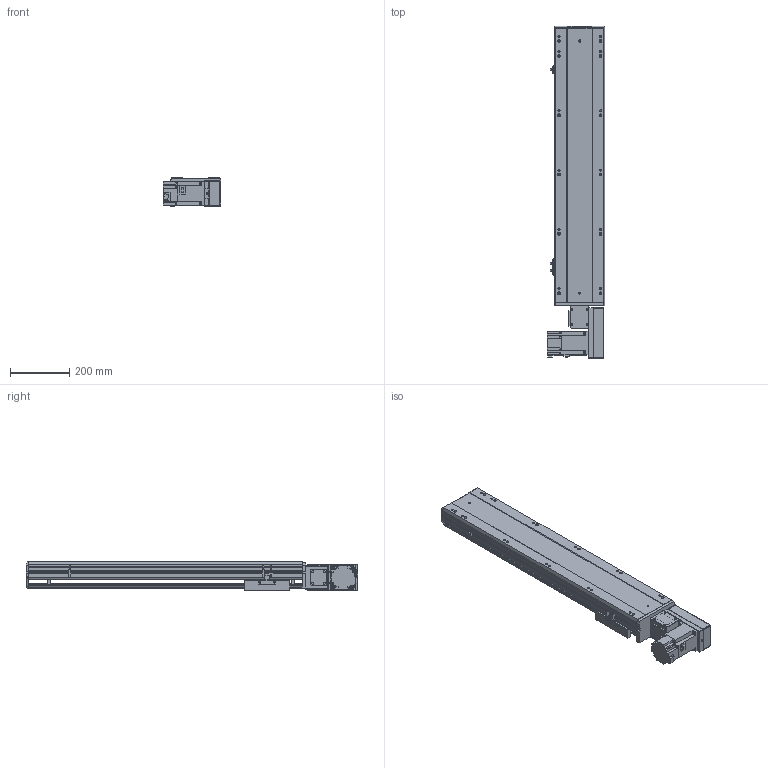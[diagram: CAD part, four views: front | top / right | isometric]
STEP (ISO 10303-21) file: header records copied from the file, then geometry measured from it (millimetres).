
FILE_DESCRIPTION (( 'STEP AP203' ), '1' );
FILE_NAME ('BTB17-L50-650-L-T75-C4.STEP', '2022-07-26T01:05:47', ( 'CXY' ), ( 'BT' ), 'SwSTEP 2.0', 'SolidWorks 2016', '' );
FILE_SCHEMA (( 'CONFIG_CONTROL_DESIGN' ));
Length unit declared in the file: millimetre
Products named in the file (10): BTB17-L-01; BTB17-L-24; T75; BTB17-L50-650-L-T75-C4; BTB17-L-HZ; BTB17-L-02; BTB17-L-06; BTB17-L-04; BTB17-L-23; BTB17-L-菁釱_XD
Assembly tree (12 placements, depth 2):
  BTB17-L50-650-L-T75-C4
    BTB17-L-菁釱_XD
    BTB17-L-01
    BTB17-L-04  x3
    BTB17-L-06
    BTB17-L-23  x2
    BTB17-L-24
    BTB17-L-HZ
    BTB17-L-02
    T75
Bounding box: 195.3 x 1119.5 x 97 mm (x, y, z)
Volume: 9399249.1 mm3; surface area: 1320634 mm2
Topology: 22 solids, 22 shells, 1570 faces, 4133 edges, 2616 vertices
Faces by surface type: plane 866, cylinder 528, cone 140, bspline 20, torus 16
Entity records: 40109 total; most frequent: CARTESIAN_POINT 7532, DIRECTION 6671, ORIENTED_EDGE 6434, EDGE_CURVE 3217, AXIS2_PLACEMENT_3D 2279, LINE 2113, VECTOR 2113, VERTEX_POINT 2084
